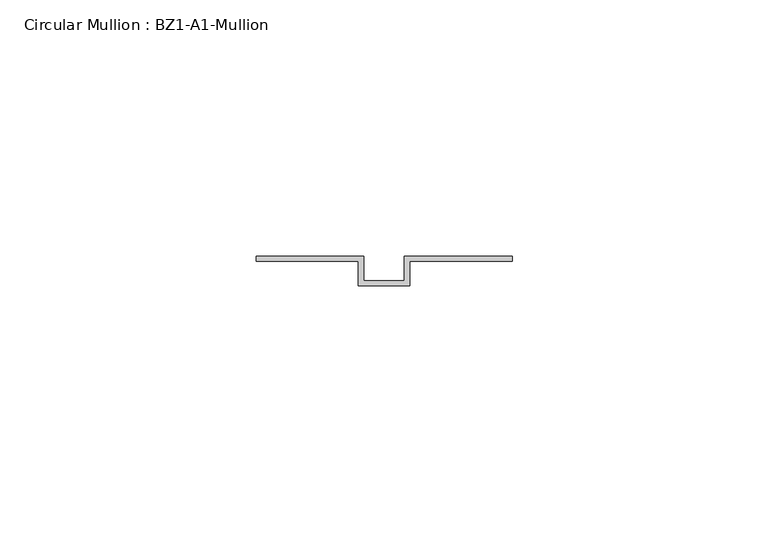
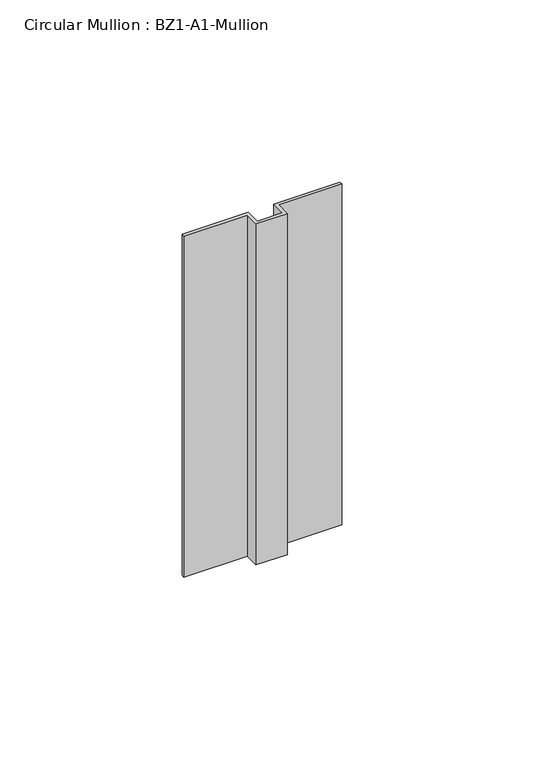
"""IFC4 building model written with IfcOpenShell, lengths in millimetres: member geometry, Circular Mullion : BZ1-A1-Mullion."""

import ifcopenshell
import ifcopenshell.guid

model = None  # the IFC model being written
_history = None  # IfcOwnerHistory: only IFC2X3 demands one
_inside = {}  # id of a spatial element -> (the spatial element, [elements in it])
_under = {}  # id of a project, library or spatial element -> (it, [spatial elements below it])
_declared = {}  # id of a project -> (the project, [libraries it declares])
_typed = {}  # id of a type object -> (the type object, [elements of that type])
_made_of = {}  # id of a material, layer set ... -> (it, [elements and type objects made of it])


def new_model(schema):
    """Start an empty IFC model of exactly this schema.

    Asked for "IFC4X3", IfcOpenShell would pick the latest addendum, in which some entities
    have other attributes; the version numbers below select the first issue.
    IFC2X3 requires an IfcOwnerHistory on every rooted entity: one is made here for all.
    """
    global model, _history
    if schema == "IFC4X3":
        model = ifcopenshell.file(schema_version=(4, 3, 0, 0))
    else:
        model = ifcopenshell.file(schema=schema)
    _inside.clear()
    _under.clear()
    _declared.clear()
    _typed.clear()
    _made_of.clear()
    _history = None
    if model.schema == "IFC2X3":
        org = make("IfcOrganization", Name="unknown")
        user = make(
            "IfcPersonAndOrganization",
            ThePerson=make("IfcPerson", FamilyName="unknown"),
            TheOrganization=org,
        )
        app = make(
            "IfcApplication",
            ApplicationDeveloper=org,
            Version="unknown",
            ApplicationFullName="unknown",
            ApplicationIdentifier="unknown",
        )
        _history = make(
            "IfcOwnerHistory",
            OwningUser=user,
            OwningApplication=app,
            ChangeAction="ADDED",
            CreationDate=0,
        )
    return model


def make(cls, **values):
    """One entity of the class cls with the attributes given. An attribute that is None is left unset."""
    return model.create_entity(
        cls, **{name: value for name, value in values.items() if value is not None}
    )


def rooted(cls, **values):
    """An entity with a GlobalId (a new one), such as an element, a storey or a relation."""
    return make(cls, GlobalId=ifcopenshell.guid.new(), OwnerHistory=_history, **values)


def si_unit(unit_type, name, prefix=None):
    """IfcSIUnit, for example si_unit("LENGTHUNIT", "METRE", prefix="MILLI")."""
    return make("IfcSIUnit", UnitType=unit_type, Prefix=prefix, Name=name)


def assignment(units):
    """IfcUnitAssignment: the units of a project."""
    return None if units is None else make("IfcUnitAssignment", Units=units)


def point(xyz):
    """IfcCartesianPoint."""
    return None if xyz is None else make("IfcCartesianPoint", Coordinates=xyz)


def direction(xyz):
    """IfcDirection."""
    return None if xyz is None else make("IfcDirection", DirectionRatios=xyz)


def frame(location, z_axis=None, x_axis=None):
    """IfcAxis2Placement3D, a coordinate frame: its origin and axes. An axis left out is left unset."""
    return make(
        "IfcAxis2Placement3D",
        Location=point(location),
        Axis=direction(z_axis),
        RefDirection=direction(x_axis),
    )


def origin():
    """The frame at (0, 0, 0) with its axes left unset."""
    return frame((0.0, 0.0, 0.0))


def place(relative_to, where):
    """IfcLocalPlacement: puts the frame where relative to a parent placement (None: the world)."""
    return make(
        "IfcLocalPlacement", PlacementRelTo=relative_to, RelativePlacement=where
    )


def context(
    kind, dimensions, precision=None, world=None, true_north=None, identifier=None
):
    """IfcGeometricRepresentationContext, for example the 3D "Model" context."""
    return make(
        "IfcGeometricRepresentationContext",
        ContextIdentifier=identifier,
        ContextType=kind,
        CoordinateSpaceDimension=dimensions,
        Precision=precision,
        WorldCoordinateSystem=world,
        TrueNorth=true_north,
    )


def project(units=None, contexts=None):
    """IfcProject with its units and contexts."""
    return rooted(
        "IfcProject",
        Name="project",
        RepresentationContexts=contexts,
        UnitsInContext=assignment(units),
    )


def spatial(cls, under=None, at=None, **own):
    """A site, building, storey or space (cls), placed at a placement, below another one or the project."""
    s = rooted(cls, ObjectPlacement=at, **own)
    if under is not None:
        _under.setdefault(under.id(), (under, []))[1].append(s)
    return s


def polyline(points):
    """IfcPolyline through the points."""
    return make("IfcPolyline", Points=[point(p) for p in points])


def outline(outer, holes=None, kind="AREA"):
    """IfcArbitraryClosedProfileDef: a profile drawn as a closed curve; with holes, ...WithVoids."""
    if holes is None:
        return make("IfcArbitraryClosedProfileDef", ProfileType=kind, OuterCurve=outer)
    return make(
        "IfcArbitraryProfileDefWithVoids",
        ProfileType=kind,
        OuterCurve=outer,
        InnerCurves=holes,
    )


def extrude(swept, where, along, depth):
    """IfcExtrudedAreaSolid: the profile swept, set in the frame where, extruded along a direction by depth."""
    return make(
        "IfcExtrudedAreaSolid",
        SweptArea=swept,
        Position=where,
        ExtrudedDirection=direction(along),
        Depth=depth,
    )


def shape(context_of_items, identifier, shape_type, items):
    """IfcShapeRepresentation: the items that make up one representation, for example the "Body"."""
    return make(
        "IfcShapeRepresentation",
        ContextOfItems=context_of_items,
        RepresentationIdentifier=identifier,
        RepresentationType=shape_type,
        Items=items,
    )


def source(mapping_origin, context_of_items, identifier, shape_type, items):
    """IfcRepresentationMap: a shape defined once, which mapped items show again and again."""
    return make(
        "IfcRepresentationMap",
        MappingOrigin=mapping_origin,
        MappedRepresentation=shape(context_of_items, identifier, shape_type, items),
    )


def transform(
    local_origin,
    x_axis=None,
    y_axis=None,
    z_axis=None,
    scale=None,
    scale2=None,
    scale3=None,
    uniform=True,
):
    """IfcCartesianTransformationOperator3D, or its non-uniform kind. x_axis, y_axis, z_axis: its Axis1, 2, 3."""
    if uniform:
        return make(
            "IfcCartesianTransformationOperator3D",
            Axis1=direction(x_axis),
            Axis2=direction(y_axis),
            LocalOrigin=point(local_origin),
            Scale=scale,
            Axis3=direction(z_axis),
        )
    return make(
        "IfcCartesianTransformationOperator3DnonUniform",
        Axis1=direction(x_axis),
        Axis2=direction(y_axis),
        LocalOrigin=point(local_origin),
        Scale=scale,
        Axis3=direction(z_axis),
        Scale2=scale2,
        Scale3=scale3,
    )


def mapped(mapping_source, mapping_target):
    """IfcMappedItem: shows the shape of a source again, moved by a transform."""
    return make(
        "IfcMappedItem", MappingSource=mapping_source, MappingTarget=mapping_target
    )


def made_of(thing, what):
    """Note that an element or type object is made of a material, layer set ...; save() writes the relation."""
    if what is not None:
        _made_of.setdefault(what.id(), (what, []))[1].append(thing)
    return thing


def element(
    cls,
    number,
    at=None,
    inside=None,
    cuts=None,
    type_object=None,
    material=None,
    context=None,
    identifier="Body",
    shape_type=None,
    held_by="IfcProductDefinitionShape",
    body=None,
    shapes=None,
    **own,
):
    """One element of the class cls, such as IfcWall. Its Tag is "e" and its number.

    at: its placement. inside: the storey or other place that contains it. cuts: it is an
    opening in that element (IfcRelVoidsElement). A single representation is given by context,
    identifier, shape_type and body (its items); several are given by shapes. held_by: the class
    of the entity that holds the representations. save() writes the other relations.
    """
    e = rooted(cls, Tag="e%d" % number, ObjectPlacement=at, **own)
    if body is not None:
        shapes = [shape(context, identifier, shape_type, body)]
    if shapes is not None:
        e.Representation = make(held_by, Representations=shapes)
    if inside is not None:
        _inside.setdefault(inside.id(), (inside, []))[1].append(e)
    if cuts is not None:
        rooted(
            "IfcRelVoidsElement", RelatingBuildingElement=cuts, RelatedOpeningElement=e
        )
    if type_object is not None:
        _typed.setdefault(type_object.id(), (type_object, []))[1].append(e)
    return made_of(e, material)


def aggregate(whole, parts):
    """IfcRelAggregates: a whole, such as a stair, and the parts it consists of."""
    return rooted("IfcRelAggregates", RelatingObject=whole, RelatedObjects=parts)


def save(model, path):
    """Write the relations noted so far, then the file.

    IfcRelAggregates (storeys below a building ...), IfcRelContainedInSpatialStructure (elements
    in a storey), IfcRelDefinesByType, IfcRelAssociatesMaterial and IfcRelDeclares: one each for
    every whole, place, type object, material and project.
    """
    for whole, parts in _under.values():
        aggregate(whole, parts)
    for where, things in _inside.values():
        rooted(
            "IfcRelContainedInSpatialStructure",
            RelatedElements=things,
            RelatingStructure=where,
        )
    for kind, things in _typed.values():
        rooted("IfcRelDefinesByType", RelatedObjects=things, RelatingType=kind)
    for what, things in _made_of.values():
        rooted("IfcRelAssociatesMaterial", RelatedObjects=things, RelatingMaterial=what)
    for by, libraries in _declared.values():
        rooted("IfcRelDeclares", RelatingContext=by, RelatedDefinitions=libraries)
    model.write(path)


def circular_mullion_bz1_a1_mullion_cc127a66(model_context):
    return source(origin(), model_context, "Body", "SweptSolid", [
        extrude(outline(polyline([(-25.0, 11.0), (-4.0, 11.0), (-4.0, 6.2), (4.0, 6.2), (4.0, 11.0), (25.0, 11.0), (25.0, 10.0), (5.0, 10.0), (5.0, 5.2), (-5.0, 5.2), (-5.0, 10.0), (-25.0, 10.0), (-25.0, 11.0)])), frame((0.0, 0.0, -114.2592593), z_axis=(0.0, 0.0, 1.0), x_axis=(1.0, 0.0, 0.0)), (0.0, 0.0, 1.0), 114.2592593),
    ])


if __name__ == "__main__":
    model = new_model("IFC4")
    model_context = context("Model", 3, world=origin())
    ifc_project = project(units=[si_unit("LENGTHUNIT", "METRE", prefix="MILLI")], contexts=[model_context])
    site = spatial("IfcSite", under=ifc_project)
    building = spatial("IfcBuilding", under=site)
    placement = place(None, origin())
    circular_mullion_bz1_a1_mullion_shape = circular_mullion_bz1_a1_mullion_cc127a66(model_context)
    element("IfcMember", 1, ObjectType="Circular Mullion : BZ1-A1-Mullion", at=placement, inside=building, context=model_context, shape_type="MappedRepresentation", body=[
        mapped(circular_mullion_bz1_a1_mullion_shape, transform((0.0, 0.0, 0.0), x_axis=(1.0, 0.0, 0.0), y_axis=(0.0, 1.0, 0.0), z_axis=(0.0, 0.0, 1.0))),
    ])
    save(model, "model.ifc")
